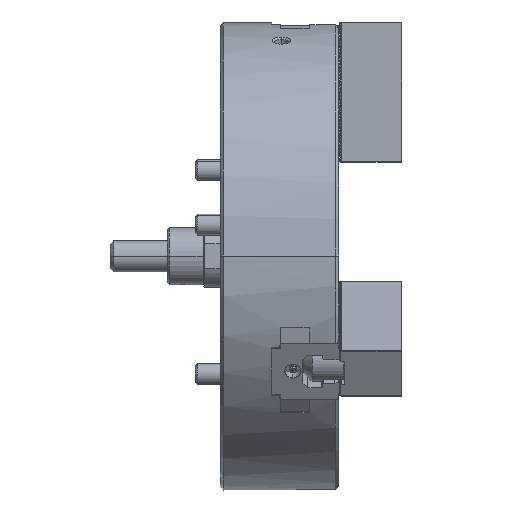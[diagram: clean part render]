
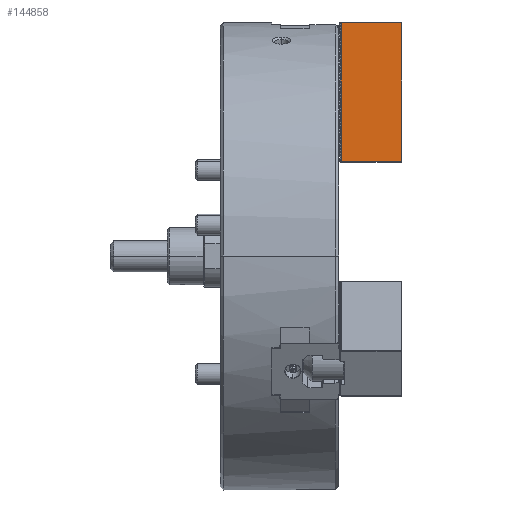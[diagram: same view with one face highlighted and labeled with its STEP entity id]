
A CAD part, top view. The second image highlights one B-rep face of the part: STEP entity #144858.
In plain terms, the highlighted planar face has unit normal (0, 0, 1).
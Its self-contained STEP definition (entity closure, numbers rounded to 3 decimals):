
#252 = LINE ( 'NONE', #93468, #5405 ) ;
#5405 = VECTOR ( 'NONE', #173348, 1000. ) ;
#5726 = CARTESIAN_POINT ( 'NONE',  ( 60., 0.6, 25. ) ) ;
#19330 = DIRECTION ( 'NONE',  ( 0., 1., 0. ) ) ;
#30253 = VERTEX_POINT ( 'NONE', #85281 ) ;
#37479 = LINE ( 'NONE', #5726, #79415 ) ;
#47004 = CARTESIAN_POINT ( 'NONE',  ( 59.4, 134.4, 25. ) ) ;
#47248 = CARTESIAN_POINT ( 'NONE',  ( 59.4, 134.4, 25. ) ) ;
#58339 = LINE ( 'NONE', #47004, #147952 ) ;
#61697 = FACE_OUTER_BOUND ( 'NONE', #175630, .T. ) ;
#75116 = VECTOR ( 'NONE', #19330, 1000. ) ;
#76055 = PLANE ( 'NONE',  #155328 ) ;
#76514 = ORIENTED_EDGE ( 'NONE', *, *, #119653, .T. ) ;
#77054 = CARTESIAN_POINT ( 'NONE',  ( 60., 0.6, 25. ) ) ;
#79415 = VECTOR ( 'NONE', #145059, 1000. ) ;
#80842 = CARTESIAN_POINT ( 'NONE',  ( 1.4, 0., 25. ) ) ;
#85003 = VERTEX_POINT ( 'NONE', #47248 ) ;
#85281 = CARTESIAN_POINT ( 'NONE',  ( 59.4, 0.6, 25. ) ) ;
#88175 = ORIENTED_EDGE ( 'NONE', *, *, #115901, .F. ) ;
#93468 = CARTESIAN_POINT ( 'NONE',  ( 60., 134.4, 25. ) ) ;
#108567 = ORIENTED_EDGE ( 'NONE', *, *, #125379, .F. ) ;
#113569 = LINE ( 'NONE', #80842, #75116 ) ;
#115901 = EDGE_CURVE ( 'NONE', #184220, #139419, #113569, .T. ) ;
#119653 = EDGE_CURVE ( 'NONE', #30253, #85003, #58339, .T. ) ;
#125379 = EDGE_CURVE ( 'NONE', #30253, #184220, #37479, .T. ) ;
#132728 = CARTESIAN_POINT ( 'NONE',  ( 1.4, 0.6, 25. ) ) ;
#138503 = DIRECTION ( 'NONE',  ( 0., 1., 0. ) ) ;
#139419 = VERTEX_POINT ( 'NONE', #196560 ) ;
#144858 = ADVANCED_FACE ( 'NONE', ( #61697 ), #76055, .F. ) ;
#145059 = DIRECTION ( 'NONE',  ( -1., 0., 0. ) ) ;
#145065 = ORIENTED_EDGE ( 'NONE', *, *, #146905, .T. ) ;
#146905 = EDGE_CURVE ( 'NONE', #85003, #139419, #252, .T. ) ;
#147952 = VECTOR ( 'NONE', #153571, 1000. ) ;
#153571 = DIRECTION ( 'NONE',  ( 0., 1., 0. ) ) ;
#155328 = AXIS2_PLACEMENT_3D ( 'NONE', #77054, #187710, #138503 ) ;
#173348 = DIRECTION ( 'NONE',  ( -1., 0., 0. ) ) ;
#175630 = EDGE_LOOP ( 'NONE', ( #108567, #76514, #145065, #88175 ) ) ;
#184220 = VERTEX_POINT ( 'NONE', #132728 ) ;
#187710 = DIRECTION ( 'NONE',  ( 0., 0., -1. ) ) ;
#196560 = CARTESIAN_POINT ( 'NONE',  ( 1.4, 134.4, 25. ) ) ;
